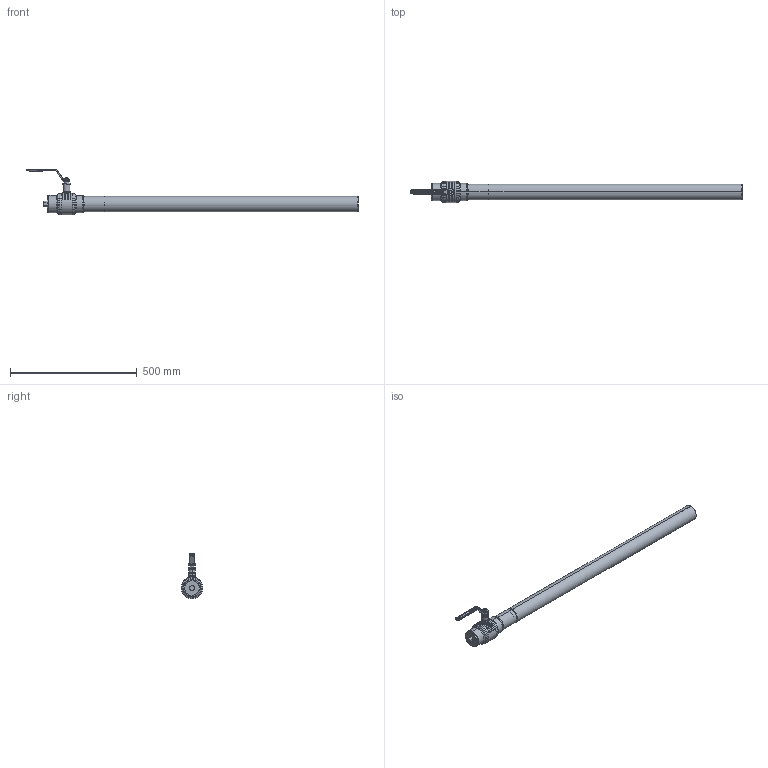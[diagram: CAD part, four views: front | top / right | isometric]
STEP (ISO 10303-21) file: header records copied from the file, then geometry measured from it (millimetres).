
FILE_DESCRIPTION((''),'2;1');
FILE_NAME('KHMO-ELE-50R40-SM-H','2024-04-17T12:56:22',('jeitlers'),('KLINGER'),'CREO PARAMETRIC BY PTC INC, 2023014','CREO PARAMETRIC BY PTC INC, 2023014','');
FILE_SCHEMA(('CONFIG_CONTROL_DESIGN'));
Products named in the file (1): KHMO-ELE-50R40-SM-H
Bounding box: 1310 x 84.45 x 180.02 mm (x, y, z)
Volume: 1088915.1 mm3; surface area: 514706.5 mm2
Topology: 1 solids, 1 shells, 775 faces, 1780 edges, 1036 vertices
Faces by surface type: cylinder 247, plane 143, torus 134, bspline 130, cone 108, sphere 8, extrusion 5
Entity records: 39843 total; most frequent: CARTESIAN_POINT 22986, ORIENTED_EDGE 3556, DIRECTION 3531, EDGE_CURVE 1778, AXIS2_PLACEMENT_3D 1481, VERTEX_POINT 1036, CIRCLE 838, EDGE_LOOP 818
